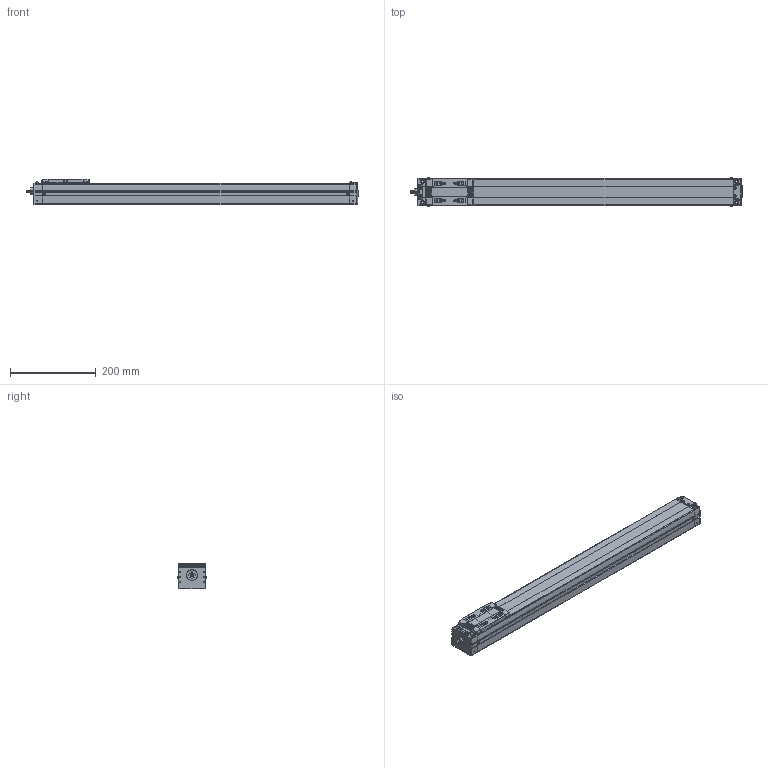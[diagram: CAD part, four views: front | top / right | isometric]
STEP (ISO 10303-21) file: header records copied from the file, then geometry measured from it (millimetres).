
FILE_DESCRIPTION(('STEP AP203'),'1');
FILE_NAME('Z:/Web/3D/SAN65/2012.ver/STP/600/SAN65ㅁㅁ-600.stp','2014-06-13T04:38:57',(' '),(' '),'Spatial InterOp 3D',' ',' ');
FILE_SCHEMA(('CONFIG_CONTROL_DESIGN'));
Length unit declared in the file: millimetre
Products named in the file (23): 1; 2; 3; 4; 5; 6; 7; 8; 9; 10; 11; 12; 13; 14; 15; 16; 17; 18; 19; 20; 21; 22; 23
Bounding box: 774.65 x 67.13 x 60 mm (x, y, z)
Volume: 2417455.2 mm3; surface area: 261332.8 mm2
Topology: 23 solids, 23 shells, 1688 faces, 4426 edges, 2831 vertices
Faces by surface type: plane 842, cylinder 599, cone 167, sphere 32, bspline 24, torus 18, extrusion 6
Full cylindrical faces by diameter (mm): 2.132 x1, 3.5 x2, 6 x2
Entity records: 54963 total; most frequent: CARTESIAN_POINT 11578, DIRECTION 9106, ORIENTED_EDGE 8652, EDGE_CURVE 4326, AXIS2_PLACEMENT_3D 3195, VERTEX_POINT 2830, VECTOR 2716, LINE 2710
